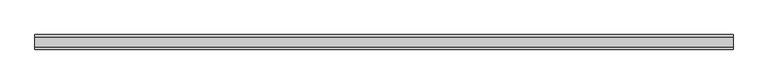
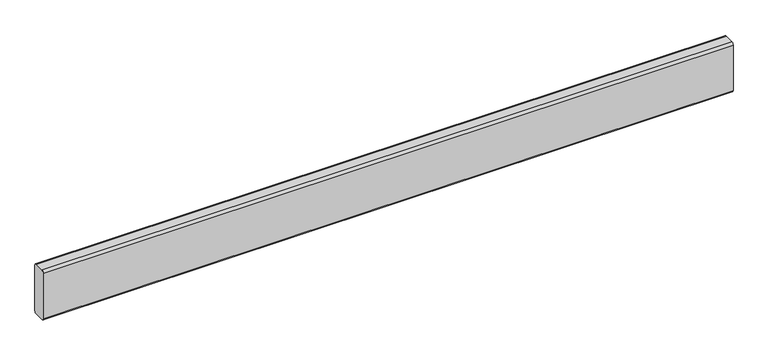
"""IFC4 building model written with IfcOpenShell, lengths in millimetres: proxy geometry, GROUTED CMU CELLS_horizontal : GROUTED CMU CELLS_horizontal."""

from ifc_helpers import new_model, si_unit, point, frame, frame_2d, origin, place, context, project, spatial, polyline, circle_curve, trimmed, segment, composite_curve, outline, extrude, source, transform, mapped, element, save


def generic_models_13990884(model_context):
    return source(origin(), model_context, "Body", "SweptSolid", [
        extrude(outline(composite_curve([segment(trimmed(circle_curve(frame_2d((34.925, -168.275)), 15.875), [point((50.8, -168.275))], [point((34.925, -184.15))], False, "CARTESIAN"), True, "CONTINUOUS"), segment(polyline([(34.925, -184.15), (-34.925, -184.15)]), True, "CONTINUOUS"), segment(trimmed(circle_curve(frame_2d((-34.925, -168.275)), 15.875), [point((-34.925, -184.15))], [point((-50.8, -168.275))], False, "CARTESIAN"), True, "CONTINUOUS"), segment(polyline([(-50.8, -168.275), (-50.8, 168.275)]), True, "CONTINUOUS"), segment(trimmed(circle_curve(frame_2d((-34.925, 168.275)), 15.875), [point((-50.8, 168.275))], [point((-34.925, 184.15))], False, "CARTESIAN"), True, "CONTINUOUS"), segment(polyline([(-34.925, 184.15), (34.925, 184.15)]), True, "CONTINUOUS"), segment(trimmed(circle_curve(frame_2d((34.925, 168.275)), 15.875), [point((34.925, 184.15))], [point((50.8, 168.275))], False, "CARTESIAN"), True, "CONTINUOUS"), segment(polyline([(50.8, 168.275), (50.8, -168.275)]), True, "CONTINUOUS")], self_intersect=False)), frame((0.0, 0.0, 0.0), z_axis=(1.0, 0.0, 0.0), x_axis=(0.0, 1.0, 0.0)), (0.0, 0.0, 1.0), 4851.4),
    ])


if __name__ == "__main__":
    model = new_model("IFC4")
    model_context = context("Model", 3, world=origin())
    ifc_project = project(units=[si_unit("LENGTHUNIT", "METRE", prefix="MILLI")], contexts=[model_context])
    site = spatial("IfcSite", under=ifc_project)
    building = spatial("IfcBuilding", under=site)
    placement = place(None, origin())
    generic_models_shape = generic_models_13990884(model_context)
    element("IfcBuildingElementProxy", 1, Name="GROUTED CMU CELLS_horizontal : GROUTED CMU CELLS_horizontal", ObjectType="GROUTED CMU CELLS_horizontal : GROUTED CMU CELLS_horizontal", at=placement, inside=building, context=model_context, shape_type="MappedRepresentation", body=[
        mapped(generic_models_shape, transform((0.0, 0.0, 0.0), x_axis=(1.0, 0.0, 0.0), y_axis=(0.0, 1.0, 0.0), z_axis=(0.0, 0.0, 1.0))),
    ])
    save(model, "model.ifc")
